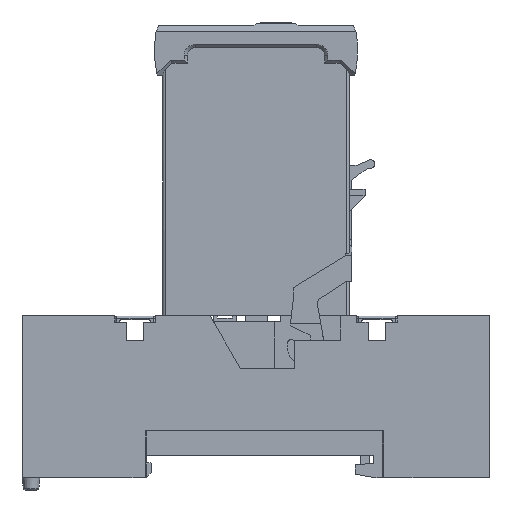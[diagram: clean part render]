
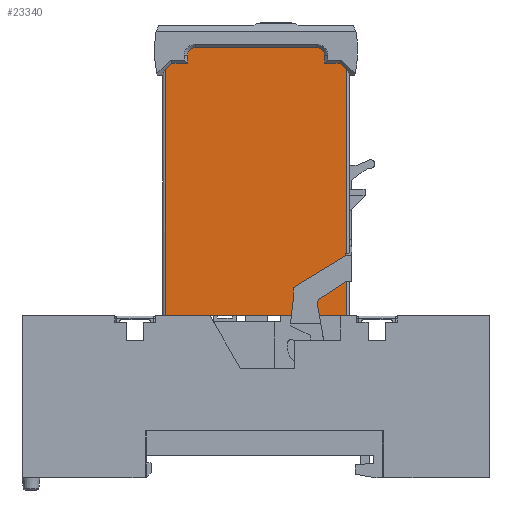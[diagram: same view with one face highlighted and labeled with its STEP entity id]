
A CAD part, left-side view. The second image highlights one B-rep face of the part: STEP entity #23340.
In plain terms, the highlighted planar face has unit normal (-1, 0, 0).
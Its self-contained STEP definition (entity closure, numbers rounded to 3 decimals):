
#1175 = CARTESIAN_POINT ( 'NONE',  ( 1.4, 52.5, 37.938 ) ) ;
#2077 = DIRECTION ( 'NONE',  ( 0., 0., -1. ) ) ;
#2430 = VECTOR ( 'NONE', #30078, 1000. ) ;
#2686 = DIRECTION ( 'NONE',  ( 0., 1., 0. ) ) ;
#2700 = VECTOR ( 'NONE', #11267, 1000. ) ;
#2777 = EDGE_CURVE ( 'NONE', #18707, #18859, #27638, .T. ) ;
#2845 = DIRECTION ( 'NONE',  ( 0., 0.707, -0.707 ) ) ;
#3765 = EDGE_CURVE ( 'NONE', #19265, #16558, #15677, .T. ) ;
#3780 = ORIENTED_EDGE ( 'NONE', *, *, #28288, .T. ) ;
#3939 = VERTEX_POINT ( 'NONE', #34379 ) ;
#4119 = ORIENTED_EDGE ( 'NONE', *, *, #4214, .T. ) ;
#4214 = EDGE_CURVE ( 'NONE', #11453, #14694, #18087, .T. ) ;
#4680 = CARTESIAN_POINT ( 'NONE',  ( 1.4, 51., 68.503 ) ) ;
#5889 = CARTESIAN_POINT ( 'NONE',  ( 1.4, 23., 73. ) ) ;
#5999 = CARTESIAN_POINT ( 'NONE',  ( 1.4, 51., 68.503 ) ) ;
#6226 = CARTESIAN_POINT ( 'NONE',  ( 1.4, 23.159, 73. ) ) ;
#6674 = LINE ( 'NONE', #1175, #19614 ) ;
#7016 = ORIENTED_EDGE ( 'NONE', *, *, #23565, .T. ) ;
#7213 = VECTOR ( 'NONE', #25894, 1000. ) ;
#7417 = ORIENTED_EDGE ( 'NONE', *, *, #8283, .T. ) ;
#7592 = PLANE ( 'NONE',  #32010 ) ;
#7763 = ORIENTED_EDGE ( 'NONE', *, *, #2777, .T. ) ;
#7901 = AXIS2_PLACEMENT_3D ( 'NONE', #20739, #36197, #21129 ) ;
#8113 = EDGE_CURVE ( 'NONE', #9865, #28546, #8621, .T. ) ;
#8134 = CARTESIAN_POINT ( 'NONE',  ( 1.4, 23., 33.461 ) ) ;
#8283 = EDGE_CURVE ( 'NONE', #18859, #9865, #33178, .T. ) ;
#8621 = LINE ( 'NONE', #26196, #30538 ) ;
#8849 = LINE ( 'NONE', #5889, #12458 ) ;
#9308 = EDGE_CURVE ( 'NONE', #28546, #19268, #33324, .T. ) ;
#9319 = ORIENTED_EDGE ( 'NONE', *, *, #8113, .T. ) ;
#9865 = VERTEX_POINT ( 'NONE', #37954 ) ;
#10669 = CARTESIAN_POINT ( 'NONE',  ( 1.4, 24., 68.503 ) ) ;
#10898 = EDGE_CURVE ( 'NONE', #28325, #19265, #16538, .T. ) ;
#11267 = DIRECTION ( 'NONE',  ( 0., 0., 1. ) ) ;
#11453 = VERTEX_POINT ( 'NONE', #26994 ) ;
#11497 = VERTEX_POINT ( 'NONE', #36336 ) ;
#11746 = LINE ( 'NONE', #21292, #30503 ) ;
#11851 = EDGE_CURVE ( 'NONE', #19268, #11453, #16991, .T. ) ;
#11902 = CARTESIAN_POINT ( 'NONE',  ( 1.4, 48.5, 69.753 ) ) ;
#12237 = VERTEX_POINT ( 'NONE', #17418 ) ;
#12323 = CARTESIAN_POINT ( 'NONE',  ( 1.4, 26.5, 68.503 ) ) ;
#12458 = VECTOR ( 'NONE', #17818, 1000. ) ;
#12493 = DIRECTION ( 'NONE',  ( 0., 0., -1. ) ) ;
#12961 = ORIENTED_EDGE ( 'NONE', *, *, #25038, .F. ) ;
#13518 = CARTESIAN_POINT ( 'NONE',  ( 1.4, 24., 68.503 ) ) ;
#13618 = EDGE_CURVE ( 'NONE', #29348, #17400, #14609, .T. ) ;
#13755 = ORIENTED_EDGE ( 'NONE', *, *, #21088, .T. ) ;
#14094 = ORIENTED_EDGE ( 'NONE', *, *, #9308, .T. ) ;
#14609 = LINE ( 'NONE', #17132, #36910 ) ;
#14694 = VERTEX_POINT ( 'NONE', #19984 ) ;
#14916 = VECTOR ( 'NONE', #2845, 1000. ) ;
#15677 = LINE ( 'NONE', #12323, #29010 ) ;
#15699 = VECTOR ( 'NONE', #12493, 1000. ) ;
#15859 = FACE_OUTER_BOUND ( 'NONE', #37234, .T. ) ;
#16246 = CARTESIAN_POINT ( 'NONE',  ( 1.4, 26.5, 68.503 ) ) ;
#16486 = VECTOR ( 'NONE', #20804, 1000. ) ;
#16538 = LINE ( 'NONE', #10669, #7213 ) ;
#16558 = VERTEX_POINT ( 'NONE', #22585 ) ;
#16910 = EDGE_CURVE ( 'NONE', #28693, #18707, #21517, .T. ) ;
#16991 = LINE ( 'NONE', #28887, #28466 ) ;
#17132 = CARTESIAN_POINT ( 'NONE',  ( 1.4, 52.5, 33.461 ) ) ;
#17400 = VERTEX_POINT ( 'NONE', #8134 ) ;
#17418 = CARTESIAN_POINT ( 'NONE',  ( 1.4, 23., 37.938 ) ) ;
#17818 = DIRECTION ( 'NONE',  ( 0., 0., 1. ) ) ;
#18087 = LINE ( 'NONE', #27107, #16486 ) ;
#18595 = EDGE_CURVE ( 'NONE', #14694, #3939, #11746, .T. ) ;
#18707 = VERTEX_POINT ( 'NONE', #32771 ) ;
#18809 = CARTESIAN_POINT ( 'NONE',  ( 1.4, 27.75, 71.003 ) ) ;
#18859 = VERTEX_POINT ( 'NONE', #28677 ) ;
#19265 = VERTEX_POINT ( 'NONE', #16246 ) ;
#19268 = VERTEX_POINT ( 'NONE', #31241 ) ;
#19614 = VECTOR ( 'NONE', #33455, 1000. ) ;
#19686 = DIRECTION ( 'NONE',  ( 0., 0.707, 0.707 ) ) ;
#19984 = CARTESIAN_POINT ( 'NONE',  ( 1.4, 23.9, 28. ) ) ;
#20103 = ORIENTED_EDGE ( 'NONE', *, *, #13618, .F. ) ;
#20739 = CARTESIAN_POINT ( 'NONE',  ( 1.4, 27.75, 69.753 ) ) ;
#20804 = DIRECTION ( 'NONE',  ( 0., -1., 0. ) ) ;
#21042 = CARTESIAN_POINT ( 'NONE',  ( 1.4, 23.159, 37.938 ) ) ;
#21088 = EDGE_CURVE ( 'NONE', #12237, #11497, #8849, .T. ) ;
#21129 = DIRECTION ( 'NONE',  ( 0., 1., 0. ) ) ;
#21292 = CARTESIAN_POINT ( 'NONE',  ( 1.4, 52.5, 28. ) ) ;
#21517 = LINE ( 'NONE', #18809, #37244 ) ;
#21645 = CARTESIAN_POINT ( 'NONE',  ( 1.4, 27.75, 71.003 ) ) ;
#22075 = DIRECTION ( 'NONE',  ( -1., 0., 0. ) ) ;
#22487 = CARTESIAN_POINT ( 'NONE',  ( 1.4, 47.25, 69.753 ) ) ;
#22585 = CARTESIAN_POINT ( 'NONE',  ( 1.4, 26.5, 69.753 ) ) ;
#23340 = ADVANCED_FACE ( 'NONE', ( #15859 ), #7592, .F. ) ;
#23565 = EDGE_CURVE ( 'NONE', #3939, #17400, #31734, .T. ) ;
#24052 = DIRECTION ( 'NONE',  ( 0., -1., 0. ) ) ;
#24954 = ORIENTED_EDGE ( 'NONE', *, *, #11851, .T. ) ;
#25038 = EDGE_CURVE ( 'NONE', #12237, #27123, #6674, .T. ) ;
#25894 = DIRECTION ( 'NONE',  ( 0., 1., 0. ) ) ;
#25968 = LINE ( 'NONE', #37309, #34686 ) ;
#26196 = CARTESIAN_POINT ( 'NONE',  ( 1.4, 48.5, 68.503 ) ) ;
#26994 = CARTESIAN_POINT ( 'NONE',  ( 1.4, 52., 28. ) ) ;
#27107 = CARTESIAN_POINT ( 'NONE',  ( 1.4, 52.5, 28. ) ) ;
#27123 = VERTEX_POINT ( 'NONE', #21042 ) ;
#27144 = ORIENTED_EDGE ( 'NONE', *, *, #16910, .T. ) ;
#27638 = CIRCLE ( 'NONE', #35120, 1.25 ) ;
#28288 = EDGE_CURVE ( 'NONE', #16558, #28693, #35984, .T. ) ;
#28325 = VERTEX_POINT ( 'NONE', #13518 ) ;
#28466 = VECTOR ( 'NONE', #2077, 1000. ) ;
#28546 = VERTEX_POINT ( 'NONE', #4680 ) ;
#28677 = CARTESIAN_POINT ( 'NONE',  ( 1.4, 48.5, 69.753 ) ) ;
#28693 = VERTEX_POINT ( 'NONE', #21645 ) ;
#28797 = EDGE_CURVE ( 'NONE', #11497, #28325, #25968, .T. ) ;
#28887 = CARTESIAN_POINT ( 'NONE',  ( 1.4, 52., 73. ) ) ;
#29010 = VECTOR ( 'NONE', #36164, 1000. ) ;
#29348 = VERTEX_POINT ( 'NONE', #31641 ) ;
#30078 = DIRECTION ( 'NONE',  ( 0., 0., -1. ) ) ;
#30270 = LINE ( 'NONE', #6226, #15699 ) ;
#30503 = VECTOR ( 'NONE', #24052, 1000. ) ;
#30538 = VECTOR ( 'NONE', #2686, 1000. ) ;
#30716 = ORIENTED_EDGE ( 'NONE', *, *, #18595, .T. ) ;
#31241 = CARTESIAN_POINT ( 'NONE',  ( 1.4, 52., 67.503 ) ) ;
#31641 = CARTESIAN_POINT ( 'NONE',  ( 1.4, 23.159, 33.461 ) ) ;
#31688 = EDGE_CURVE ( 'NONE', #27123, #29348, #30270, .T. ) ;
#31734 = LINE ( 'NONE', #34715, #2700 ) ;
#32010 = AXIS2_PLACEMENT_3D ( 'NONE', #35346, #37514, #37910 ) ;
#32771 = CARTESIAN_POINT ( 'NONE',  ( 1.4, 47.25, 71.003 ) ) ;
#33178 = LINE ( 'NONE', #11902, #2430 ) ;
#33324 = LINE ( 'NONE', #5999, #14916 ) ;
#33347 = ORIENTED_EDGE ( 'NONE', *, *, #28797, .T. ) ;
#33455 = DIRECTION ( 'NONE',  ( 0., 1., 0. ) ) ;
#33827 = DIRECTION ( 'NONE',  ( 0., 1., 0. ) ) ;
#34213 = DIRECTION ( 'NONE',  ( 0., 1., 0. ) ) ;
#34379 = CARTESIAN_POINT ( 'NONE',  ( 1.4, 23., 28. ) ) ;
#34686 = VECTOR ( 'NONE', #19686, 1000. ) ;
#34715 = CARTESIAN_POINT ( 'NONE',  ( 1.4, 23., 73. ) ) ;
#35120 = AXIS2_PLACEMENT_3D ( 'NONE', #22487, #22075, #34213 ) ;
#35346 = CARTESIAN_POINT ( 'NONE',  ( 1.4, 52.5, 73. ) ) ;
#35478 = DIRECTION ( 'NONE',  ( 0., -1., 0. ) ) ;
#35487 = ORIENTED_EDGE ( 'NONE', *, *, #3765, .T. ) ;
#35984 = CIRCLE ( 'NONE', #7901, 1.25 ) ;
#36164 = DIRECTION ( 'NONE',  ( 0., 0., 1. ) ) ;
#36197 = DIRECTION ( 'NONE',  ( -1., 0., 0. ) ) ;
#36336 = CARTESIAN_POINT ( 'NONE',  ( 1.4, 23., 67.503 ) ) ;
#36910 = VECTOR ( 'NONE', #35478, 1000. ) ;
#37234 = EDGE_LOOP ( 'NONE', ( #12961, #13755, #33347, #38438, #35487, #3780, #27144, #7763, #7417, #9319, #14094, #24954, #4119, #30716, #7016, #20103, #38356 ) ) ;
#37244 = VECTOR ( 'NONE', #33827, 1000. ) ;
#37309 = CARTESIAN_POINT ( 'NONE',  ( 1.4, 22., 66.503 ) ) ;
#37514 = DIRECTION ( 'NONE',  ( 1., 0., 0. ) ) ;
#37910 = DIRECTION ( 'NONE',  ( 0., 1., 0. ) ) ;
#37954 = CARTESIAN_POINT ( 'NONE',  ( 1.4, 48.5, 68.503 ) ) ;
#38356 = ORIENTED_EDGE ( 'NONE', *, *, #31688, .F. ) ;
#38438 = ORIENTED_EDGE ( 'NONE', *, *, #10898, .T. ) ;
